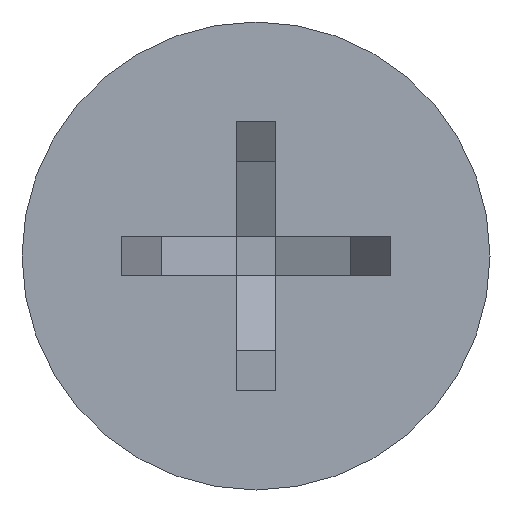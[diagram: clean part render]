
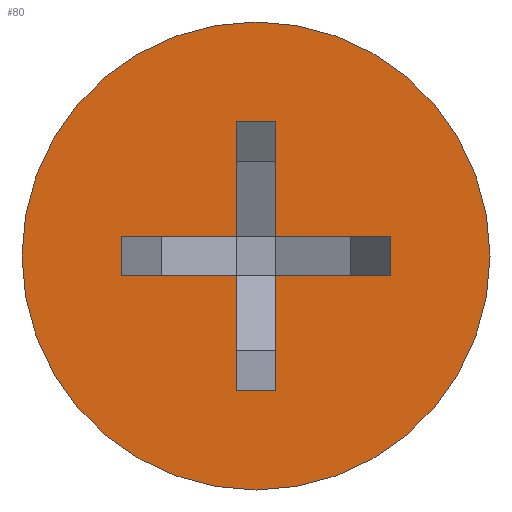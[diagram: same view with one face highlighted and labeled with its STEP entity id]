
A CAD part, left-side view. The second image highlights one B-rep face of the part: STEP entity #80.
In plain terms, the highlighted planar face has unit normal (-1, 0, 0).
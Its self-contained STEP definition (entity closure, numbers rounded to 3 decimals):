
#58=FACE_BOUND('',#150,.F.);
#80=ADVANCED_FACE('',(#58,#115),#332,.T.);
#115=FACE_OUTER_BOUND('',#151,.F.);
#150=EDGE_LOOP('',(#201,#202,#203,#204,#205,#206,#207,#208,#209,#210,#211,
#212));
#151=EDGE_LOOP('',(#213,#214));
#201=ORIENTED_EDGE('',*,*,#479,.T.);
#202=ORIENTED_EDGE('',*,*,#478,.T.);
#203=ORIENTED_EDGE('',*,*,#477,.T.);
#204=ORIENTED_EDGE('',*,*,#476,.T.);
#205=ORIENTED_EDGE('',*,*,#475,.T.);
#206=ORIENTED_EDGE('',*,*,#474,.T.);
#207=ORIENTED_EDGE('',*,*,#473,.T.);
#208=ORIENTED_EDGE('',*,*,#472,.T.);
#209=ORIENTED_EDGE('',*,*,#471,.T.);
#210=ORIENTED_EDGE('',*,*,#470,.T.);
#211=ORIENTED_EDGE('',*,*,#469,.T.);
#212=ORIENTED_EDGE('',*,*,#468,.T.);
#213=ORIENTED_EDGE('',*,*,#486,.F.);
#214=ORIENTED_EDGE('',*,*,#480,.F.);
#332=PLANE('',#617);
#354=LINE('',#872,#408);
#355=LINE('',#873,#409);
#356=LINE('',#874,#410);
#357=LINE('',#875,#411);
#358=LINE('',#876,#412);
#359=LINE('',#877,#413);
#360=LINE('',#878,#414);
#361=LINE('',#879,#415);
#362=LINE('',#880,#416);
#363=LINE('',#881,#417);
#364=LINE('',#882,#418);
#365=LINE('',#883,#419);
#408=VECTOR('',#673,0.457);
#409=VECTOR('',#674,1.321);
#410=VECTOR('',#675,1.321);
#411=VECTOR('',#676,0.457);
#412=VECTOR('',#677,1.321);
#413=VECTOR('',#678,1.321);
#414=VECTOR('',#679,0.457);
#415=VECTOR('',#680,1.321);
#416=VECTOR('',#681,1.321);
#417=VECTOR('',#682,0.457);
#418=VECTOR('',#683,1.321);
#419=VECTOR('',#684,1.321);
#468=EDGE_CURVE('',#583,#582,#354,.T.);
#469=EDGE_CURVE('',#581,#583,#355,.T.);
#470=EDGE_CURVE('',#580,#581,#356,.T.);
#471=EDGE_CURVE('',#579,#580,#357,.T.);
#472=EDGE_CURVE('',#578,#579,#358,.T.);
#473=EDGE_CURVE('',#577,#578,#359,.T.);
#474=EDGE_CURVE('',#576,#577,#360,.T.);
#475=EDGE_CURVE('',#575,#576,#361,.T.);
#476=EDGE_CURVE('',#574,#575,#362,.T.);
#477=EDGE_CURVE('',#573,#574,#363,.T.);
#478=EDGE_CURVE('',#572,#573,#364,.T.);
#479=EDGE_CURVE('',#582,#572,#365,.T.);
#480=EDGE_CURVE('',#571,#570,#540,.T.);
#486=EDGE_CURVE('',#570,#571,#542,.T.);
#540=CIRCLE('',#606,2.692);
#542=CIRCLE('',#608,2.692);
#570=VERTEX_POINT('',#844);
#571=VERTEX_POINT('',#845);
#572=VERTEX_POINT('',#846);
#573=VERTEX_POINT('',#847);
#574=VERTEX_POINT('',#848);
#575=VERTEX_POINT('',#849);
#576=VERTEX_POINT('',#850);
#577=VERTEX_POINT('',#851);
#578=VERTEX_POINT('',#852);
#579=VERTEX_POINT('',#853);
#580=VERTEX_POINT('',#854);
#581=VERTEX_POINT('',#855);
#582=VERTEX_POINT('',#856);
#583=VERTEX_POINT('',#857);
#606=AXIS2_PLACEMENT_3D('',#884,#685,#686);
#608=AXIS2_PLACEMENT_3D('',#890,#693,#694);
#617=AXIS2_PLACEMENT_3D('',#929,#741,#742);
#673=DIRECTION('',(0.,-1.,0.));
#674=DIRECTION('',(0.,0.,-1.));
#675=DIRECTION('',(0.,-1.,0.));
#676=DIRECTION('',(0.,0.,-1.));
#677=DIRECTION('',(0.,1.,0.));
#678=DIRECTION('',(0.,0.,-1.));
#679=DIRECTION('',(0.,1.,0.));
#680=DIRECTION('',(0.,0.,1.));
#681=DIRECTION('',(0.,1.,0.));
#682=DIRECTION('',(0.,0.,1.));
#683=DIRECTION('',(0.,-1.,0.));
#684=DIRECTION('',(0.,0.,1.));
#685=DIRECTION('',(-1.,0.,0.));
#686=DIRECTION('',(0.,1.,0.));
#693=DIRECTION('',(-1.,0.,0.));
#694=DIRECTION('',(0.,-1.,0.));
#741=DIRECTION('',(-1.,0.,0.));
#742=DIRECTION('',(0.,0.,1.));
#844=CARTESIAN_POINT('',(0.,-2.692,0.));
#845=CARTESIAN_POINT('',(0.,2.692,0.));
#846=CARTESIAN_POINT('',(0.,-0.229,-0.229));
#847=CARTESIAN_POINT('',(0.,-1.549,-0.229));
#848=CARTESIAN_POINT('',(0.,-1.549,0.229));
#849=CARTESIAN_POINT('',(0.,-0.229,0.229));
#850=CARTESIAN_POINT('',(0.,-0.229,1.549));
#851=CARTESIAN_POINT('',(0.,0.229,1.549));
#852=CARTESIAN_POINT('',(0.,0.229,0.229));
#853=CARTESIAN_POINT('',(0.,1.549,0.229));
#854=CARTESIAN_POINT('',(0.,1.549,-0.229));
#855=CARTESIAN_POINT('',(0.,0.229,-0.229));
#856=CARTESIAN_POINT('',(0.,-0.229,-1.549));
#857=CARTESIAN_POINT('',(0.,0.229,-1.549));
#872=CARTESIAN_POINT('',(0.,0.229,-1.549));
#873=CARTESIAN_POINT('',(0.,0.229,-0.229));
#874=CARTESIAN_POINT('',(0.,1.549,-0.229));
#875=CARTESIAN_POINT('',(0.,1.549,0.229));
#876=CARTESIAN_POINT('',(0.,0.229,0.229));
#877=CARTESIAN_POINT('',(0.,0.229,1.549));
#878=CARTESIAN_POINT('',(0.,-0.229,1.549));
#879=CARTESIAN_POINT('',(0.,-0.229,0.229));
#880=CARTESIAN_POINT('',(0.,-1.549,0.229));
#881=CARTESIAN_POINT('',(0.,-1.549,-0.229));
#882=CARTESIAN_POINT('',(0.,-0.229,-0.229));
#883=CARTESIAN_POINT('',(0.,-0.229,-1.549));
#884=CARTESIAN_POINT('',(0.,0.,0.));
#890=CARTESIAN_POINT('',(0.,0.,0.));
#929=CARTESIAN_POINT('',(0.,-2.746,-2.746));
